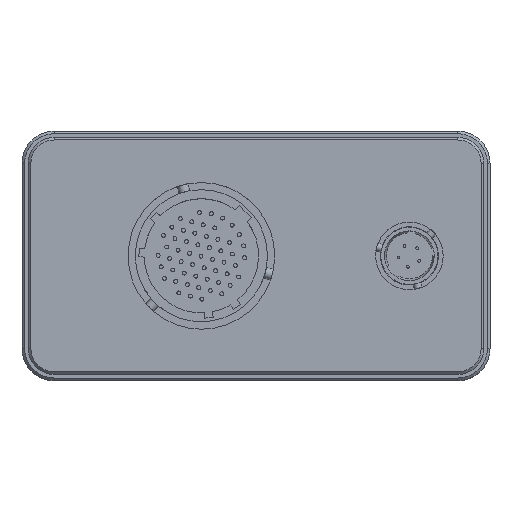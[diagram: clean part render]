
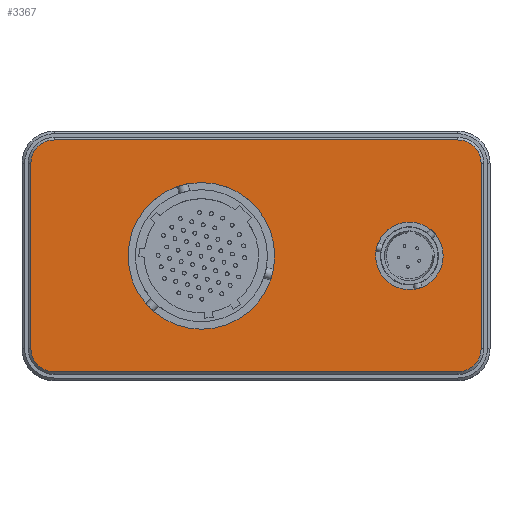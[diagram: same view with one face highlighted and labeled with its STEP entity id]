
A CAD part, top view. The second image highlights one B-rep face of the part: STEP entity #3367.
In plain terms, the highlighted planar face has unit normal (0, 0, 1).
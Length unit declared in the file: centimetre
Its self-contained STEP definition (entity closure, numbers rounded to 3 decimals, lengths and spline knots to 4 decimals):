
#450=VECTOR('',#4107,1.);
#451=VECTOR('',#4110,1.);
#452=VECTOR('',#4113,1.);
#453=VECTOR('',#4116,1.);
#597=LINE('',#5042,#450);
#598=LINE('',#5046,#451);
#599=LINE('',#5050,#452);
#600=LINE('',#5054,#453);
#749=PLANE('',#3627);
#876=VERTEX_POINT('',#5030);
#878=VERTEX_POINT('',#5036);
#879=VERTEX_POINT('',#5040);
#880=VERTEX_POINT('',#5041);
#881=VERTEX_POINT('',#5043);
#882=VERTEX_POINT('',#5045);
#883=VERTEX_POINT('',#5047);
#884=VERTEX_POINT('',#5049);
#885=VERTEX_POINT('',#5051);
#886=VERTEX_POINT('',#5053);
#1177=CIRCLE('',#3621,0.65);
#1179=CIRCLE('',#3625,1.41);
#1180=CIRCLE('',#3628,0.45);
#1181=CIRCLE('',#3629,0.45);
#1182=CIRCLE('',#3630,0.45);
#1183=CIRCLE('',#3631,0.45);
#1386=EDGE_CURVE('',#876,#876,#1177,.T.);
#1388=EDGE_CURVE('',#878,#878,#1179,.T.);
#1389=EDGE_CURVE('',#879,#880,#1180,.T.);
#1390=EDGE_CURVE('',#881,#879,#597,.T.);
#1391=EDGE_CURVE('',#882,#881,#1181,.T.);
#1392=EDGE_CURVE('',#883,#882,#598,.T.);
#1393=EDGE_CURVE('',#884,#883,#1182,.T.);
#1394=EDGE_CURVE('',#885,#884,#599,.T.);
#1395=EDGE_CURVE('',#886,#885,#1183,.T.);
#1396=EDGE_CURVE('',#880,#886,#600,.T.);
#1775=ORIENTED_EDGE('',*,*,#1389,.F.);
#1776=ORIENTED_EDGE('',*,*,#1390,.F.);
#1777=ORIENTED_EDGE('',*,*,#1391,.F.);
#1778=ORIENTED_EDGE('',*,*,#1392,.F.);
#1779=ORIENTED_EDGE('',*,*,#1393,.F.);
#1780=ORIENTED_EDGE('',*,*,#1394,.F.);
#1781=ORIENTED_EDGE('',*,*,#1395,.F.);
#1782=ORIENTED_EDGE('',*,*,#1396,.F.);
#1783=ORIENTED_EDGE('',*,*,#1388,.T.);
#1784=ORIENTED_EDGE('',*,*,#1386,.T.);
#2535=EDGE_LOOP('',(#1775,#1776,#1777,#1778,#1779,#1780,#1781,#1782));
#2536=EDGE_LOOP('',(#1783));
#2537=EDGE_LOOP('',(#1784));
#2954=FACE_BOUND('',#2535,.T.);
#2955=FACE_BOUND('',#2536,.T.);
#2956=FACE_BOUND('',#2537,.T.);
#3367=ADVANCED_FACE('',(#2954,#2955,#2956),#749,.T.);
#3621=AXIS2_PLACEMENT_3D('',#5029,#4094,#4095);
#3625=AXIS2_PLACEMENT_3D('',#5035,#4101,#4102);
#3627=AXIS2_PLACEMENT_3D('',#5038,#4104,$);
#3628=AXIS2_PLACEMENT_3D('',#5039,#4105,#4106);
#3629=AXIS2_PLACEMENT_3D('',#5044,#4108,#4109);
#3630=AXIS2_PLACEMENT_3D('',#5048,#4111,#4112);
#3631=AXIS2_PLACEMENT_3D('',#5052,#4114,#4115);
#4094=DIRECTION('',(0.,0.,-1.));
#4095=DIRECTION('',(0.65,0.,0.));
#4101=DIRECTION('',(0.,0.,-1.));
#4102=DIRECTION('',(1.41,0.,0.));
#4104=DIRECTION('',(0.,0.,1.));
#4105=DIRECTION('',(0.,0.,-1.));
#4106=DIRECTION('',(-0.318,-0.318,0.));
#4107=DIRECTION('',(-1.,0.,0.));
#4108=DIRECTION('',(0.,0.,-1.));
#4109=DIRECTION('',(0.318,-0.318,0.));
#4110=DIRECTION('',(0.,-1.,0.));
#4111=DIRECTION('',(0.,0.,-1.));
#4112=DIRECTION('',(0.318,0.318,0.));
#4113=DIRECTION('',(1.,0.,0.));
#4114=DIRECTION('',(0.,0.,-1.));
#4115=DIRECTION('',(-0.318,0.318,0.));
#4116=DIRECTION('',(0.,1.,0.));
#5029=CARTESIAN_POINT('',(7.45,2.4,2.65));
#5030=CARTESIAN_POINT('',(8.1,2.4,2.65));
#5035=CARTESIAN_POINT('',(3.45,2.4,2.65));
#5036=CARTESIAN_POINT('',(4.86,2.4,2.65));
#5038=CARTESIAN_POINT('',(4.5,2.4,2.65));
#5039=CARTESIAN_POINT('',(0.62,0.62,2.65));
#5040=CARTESIAN_POINT('',(0.62,0.17,2.65));
#5041=CARTESIAN_POINT('',(0.17,0.62,2.65));
#5042=CARTESIAN_POINT('',(4.5,0.17,2.65));
#5043=CARTESIAN_POINT('',(8.38,0.17,2.65));
#5044=CARTESIAN_POINT('',(8.38,0.62,2.65));
#5045=CARTESIAN_POINT('',(8.83,0.62,2.65));
#5046=CARTESIAN_POINT('',(8.83,2.4,2.65));
#5047=CARTESIAN_POINT('',(8.83,4.18,2.65));
#5048=CARTESIAN_POINT('',(8.38,4.18,2.65));
#5049=CARTESIAN_POINT('',(8.38,4.63,2.65));
#5050=CARTESIAN_POINT('',(4.5,4.63,2.65));
#5051=CARTESIAN_POINT('',(0.62,4.63,2.65));
#5052=CARTESIAN_POINT('',(0.62,4.18,2.65));
#5053=CARTESIAN_POINT('',(0.17,4.18,2.65));
#5054=CARTESIAN_POINT('',(0.17,2.4,2.65));
